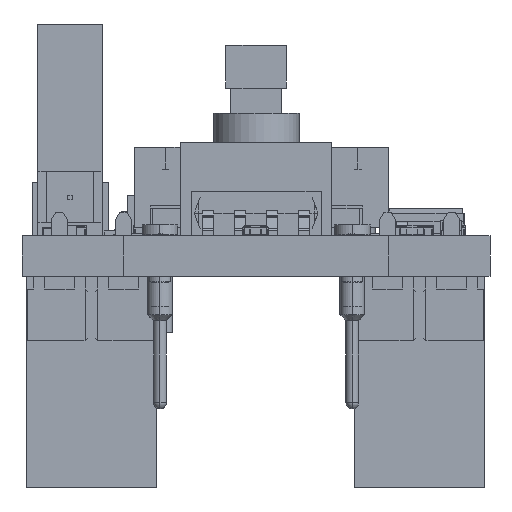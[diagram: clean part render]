
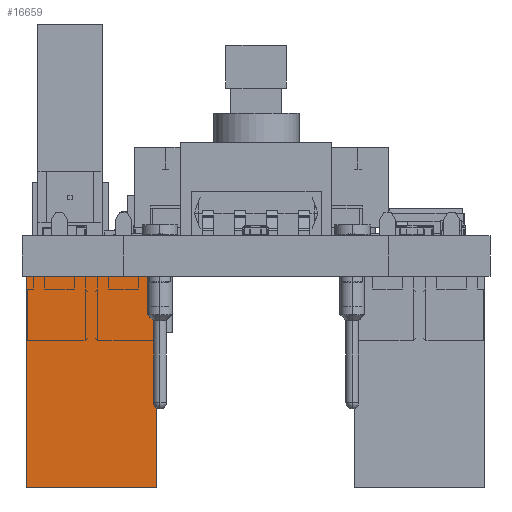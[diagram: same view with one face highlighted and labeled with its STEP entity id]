
A CAD part, front view. The second image highlights one B-rep face of the part: STEP entity #16659.
In plain terms, the highlighted planar face has unit normal (0, -1, 0).
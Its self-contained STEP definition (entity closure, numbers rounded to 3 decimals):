
#16634 = VERTEX_POINT('',#16635);
#16635 = CARTESIAN_POINT('',(-2.579,-1.299,8.38));
#16641 = EDGE_CURVE('',#16642,#16634,#16644,.T.);
#16642 = VERTEX_POINT('',#16643);
#16643 = CARTESIAN_POINT('',(-2.579,-1.299,0.));
#16644 = LINE('',#16645,#16646);
#16645 = CARTESIAN_POINT('',(-2.579,-1.299,0.));
#16646 = VECTOR('',#16647,1.);
#16647 = DIRECTION('',(0.,0.,1.));
#16659 = ADVANCED_FACE('',(#16660),#16685,.F.);
#16660 = FACE_BOUND('',#16661,.F.);
#16661 = EDGE_LOOP('',(#16662,#16663,#16671,#16679));
#16662 = ORIENTED_EDGE('',*,*,#16641,.T.);
#16663 = ORIENTED_EDGE('',*,*,#16664,.T.);
#16664 = EDGE_CURVE('',#16634,#16665,#16667,.T.);
#16665 = VERTEX_POINT('',#16666);
#16666 = CARTESIAN_POINT('',(2.579,-1.299,8.38));
#16667 = LINE('',#16668,#16669);
#16668 = CARTESIAN_POINT('',(-2.579,-1.299,8.38));
#16669 = VECTOR('',#16670,1.);
#16670 = DIRECTION('',(1.,0.,0.));
#16671 = ORIENTED_EDGE('',*,*,#16672,.F.);
#16672 = EDGE_CURVE('',#16673,#16665,#16675,.T.);
#16673 = VERTEX_POINT('',#16674);
#16674 = CARTESIAN_POINT('',(2.579,-1.299,0.));
#16675 = LINE('',#16676,#16677);
#16676 = CARTESIAN_POINT('',(2.579,-1.299,0.));
#16677 = VECTOR('',#16678,1.);
#16678 = DIRECTION('',(0.,0.,1.));
#16679 = ORIENTED_EDGE('',*,*,#16680,.F.);
#16680 = EDGE_CURVE('',#16642,#16673,#16681,.T.);
#16681 = LINE('',#16682,#16683);
#16682 = CARTESIAN_POINT('',(-2.579,-1.299,0.));
#16683 = VECTOR('',#16684,1.);
#16684 = DIRECTION('',(1.,0.,0.));
#16685 = PLANE('',#16686);
#16686 = AXIS2_PLACEMENT_3D('',#16687,#16688,#16689);
#16687 = CARTESIAN_POINT('',(-2.579,-1.299,0.));
#16688 = DIRECTION('',(0.,1.,0.));
#16689 = DIRECTION('',(1.,0.,0.));
